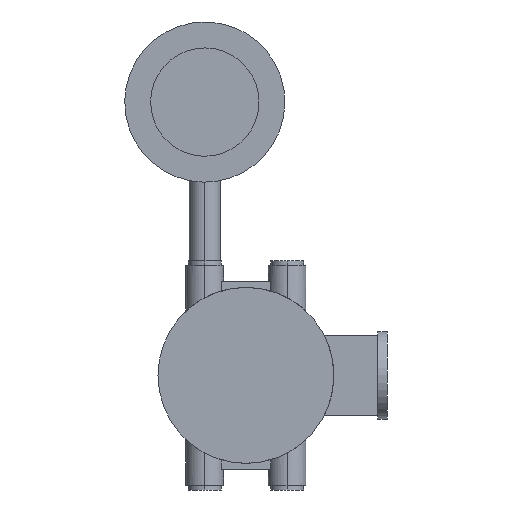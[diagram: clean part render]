
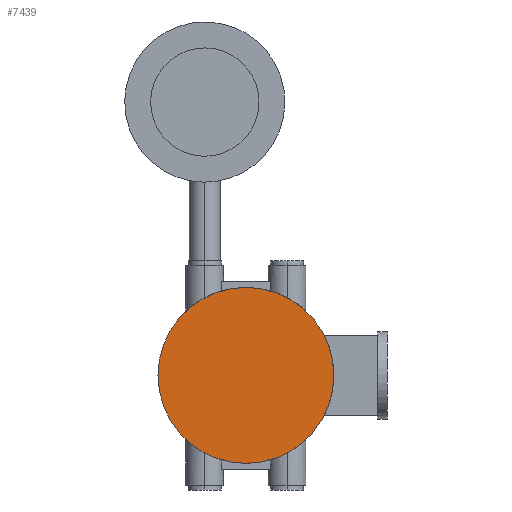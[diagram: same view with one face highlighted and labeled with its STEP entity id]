
A CAD part, front view. The second image highlights one B-rep face of the part: STEP entity #7439.
In plain terms, the highlighted planar face has unit normal (0, -1, 0).
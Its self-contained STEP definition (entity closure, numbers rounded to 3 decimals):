
#1=CARTESIAN_POINT('',(0.,-79.,0.));
#2=DIRECTION('',(0.,1.,0.));
#3=DIRECTION('',(1.,0.,0.));
#4=AXIS2_PLACEMENT_3D('',#1,#2,#3);
#6=CARTESIAN_POINT('',(0.,-79.,0.));
#7=DIRECTION('',(0.,1.,0.));
#8=DIRECTION('',(-1.,0.,0.));
#9=AXIS2_PLACEMENT_3D('',#6,#7,#8);
#5712=CARTESIAN_POINT('',(56.,-79.,0.));
#5713=CARTESIAN_POINT('',(-56.,-79.,0.));
#5714=VERTEX_POINT('',#5712);
#5715=VERTEX_POINT('',#5713);
#7428=CARTESIAN_POINT('',(0.,-79.,0.));
#7429=DIRECTION('',(0.,1.,0.));
#7430=DIRECTION('',(1.,0.,0.));
#7431=AXIS2_PLACEMENT_3D('',#7428,#7429,#7430);
#7432=PLANE('',#7431);
#7434=ORIENTED_EDGE('',*,*,#7433,.T.);
#7436=ORIENTED_EDGE('',*,*,#7435,.T.);
#7437=EDGE_LOOP('',(#7434,#7436));
#7438=FACE_OUTER_BOUND('',#7437,.F.);
#7439=ADVANCED_FACE('',(#7438),#7432,.F.);
#5=CIRCLE('',#4,56.);
#10=CIRCLE('',#9,56.);
#7433=EDGE_CURVE('',#5714,#5715,#5,.T.);
#7435=EDGE_CURVE('',#5715,#5714,#10,.T.);
